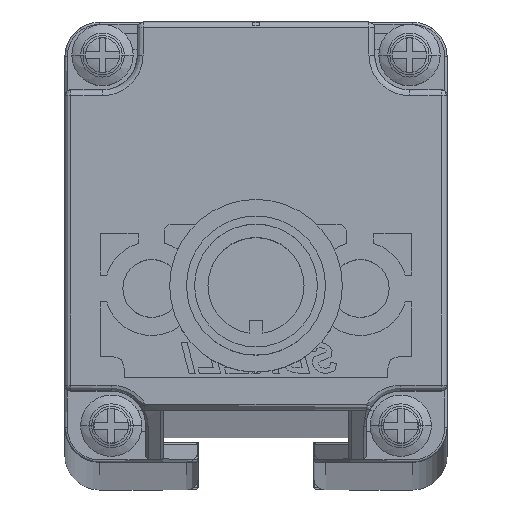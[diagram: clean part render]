
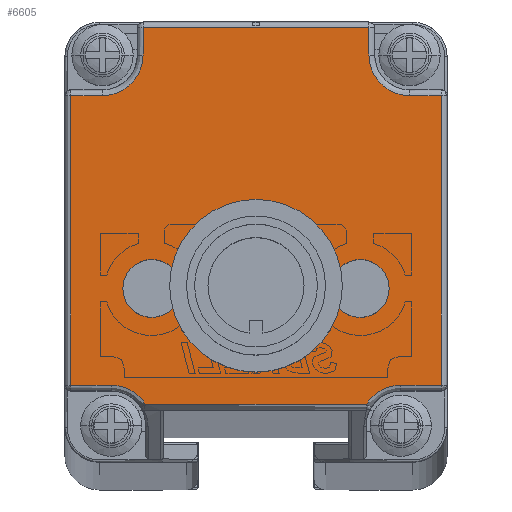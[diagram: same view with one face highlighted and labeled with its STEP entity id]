
A CAD part, top view. The second image highlights one B-rep face of the part: STEP entity #6605.
In plain terms, the highlighted planar face has unit normal (0, 0, 1).
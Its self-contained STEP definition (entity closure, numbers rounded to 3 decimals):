
#2629=CARTESIAN_POINT('',(0.65,-8.054,
1245.276));
#2630=DIRECTION('',(0.,0.,1.));
#2631=DIRECTION('',(1.,0.,0.));
#2632=AXIS2_PLACEMENT_3D('',#2629,#2630,#2631);
#2634=CARTESIAN_POINT('',(0.65,-8.054,
1245.276));
#2635=DIRECTION('',(0.,0.,1.));
#2636=DIRECTION('',(-1.,0.,0.));
#2637=AXIS2_PLACEMENT_3D('',#2634,#2635,#2636);
#2639=CARTESIAN_POINT('',(9.65,-8.055,1245.276));
#2640=DIRECTION('',(0.,0.,1.));
#2641=DIRECTION('',(1.,-0.007,0.));
#2642=AXIS2_PLACEMENT_3D('',#2639,#2640,#2641);
#2644=CARTESIAN_POINT('',(9.65,-8.055,1245.276));
#2645=DIRECTION('',(0.,0.,1.));
#2646=DIRECTION('',(-1.,0.007,0.));
#2647=AXIS2_PLACEMENT_3D('',#2644,#2645,#2646);
#2649=CARTESIAN_POINT('',(-8.35,-8.054,
1245.276));
#2650=DIRECTION('',(0.,0.,1.));
#2651=DIRECTION('',(1.,0.007,0.));
#2652=AXIS2_PLACEMENT_3D('',#2649,#2650,#2651);
#2654=CARTESIAN_POINT('',(-8.35,-8.054,
1245.276));
#2655=DIRECTION('',(0.,0.,1.));
#2656=DIRECTION('',(-1.,-0.007,0.));
#2657=AXIS2_PLACEMENT_3D('',#2654,#2655,#2656);
#2659=CARTESIAN_POINT('',(-11.85,-19.904,
1245.276));
#2660=DIRECTION('',(0.,0.,1.));
#2661=DIRECTION('',(0.849,0.528,0.));
#2662=AXIS2_PLACEMENT_3D('',#2659,#2660,#2661);
#2664=CARTESIAN_POINT('',(-12.6,12.094,1245.276));
#2665=DIRECTION('',(0.,0.,1.));
#2666=DIRECTION('',(0.,-1.,0.));
#2667=AXIS2_PLACEMENT_3D('',#2664,#2665,#2666);
#2669=CARTESIAN_POINT('',(13.9,12.094,1245.276));
#2670=DIRECTION('',(0.,0.,1.));
#2671=DIRECTION('',(-1.,0.,0.));
#2672=AXIS2_PLACEMENT_3D('',#2669,#2670,#2671);
#2674=CARTESIAN_POINT('',(13.15,-19.904,1245.276));
#2675=DIRECTION('',(0.,0.,1.));
#2676=DIRECTION('',(0.,1.,0.));
#2677=AXIS2_PLACEMENT_3D('',#2674,#2675,#2676);
#4225=DIRECTION('',(1.,0.,0.));
#4226=VECTOR('',#4225,19.056);
#4227=CARTESIAN_POINT('',(-8.878,-18.056,
1245.276));
#4228=LINE('',#4227,#4226);
#4893=DIRECTION('',(0.,1.,0.));
#4894=VECTOR('',#4893,2.35);
#4895=CARTESIAN_POINT('',(10.4,12.094,1245.276));
#4896=LINE('',#4895,#4894);
#4916=DIRECTION('',(-1.,0.,0.));
#4917=VECTOR('',#4916,19.5);
#4918=CARTESIAN_POINT('',(10.4,14.444,1245.276));
#4919=LINE('',#4918,#4917);
#4940=DIRECTION('',(0.,-1.,0.));
#4941=VECTOR('',#4940,2.35);
#4942=CARTESIAN_POINT('',(-9.1,14.444,1245.276));
#4943=LINE('',#4942,#4941);
#4967=DIRECTION('',(-1.,0.,0.));
#4968=VECTOR('',#4967,2.75);
#4969=CARTESIAN_POINT('',(-12.6,8.594,1245.276));
#4970=LINE('',#4969,#4968);
#4998=DIRECTION('',(0.,-1.,0.));
#4999=VECTOR('',#4998,24.998);
#5000=CARTESIAN_POINT('',(-15.35,8.594,1245.276));
#5001=LINE('',#5000,#4999);
#5022=DIRECTION('',(1.,0.,0.));
#5023=VECTOR('',#5022,3.5);
#5024=CARTESIAN_POINT('',(-15.35,-16.404,
1245.276));
#5025=LINE('',#5024,#5023);
#5086=DIRECTION('',(-1.,0.,0.));
#5087=VECTOR('',#5086,2.75);
#5088=CARTESIAN_POINT('',(16.65,8.594,1245.276));
#5089=LINE('',#5088,#5087);
#5326=DIRECTION('',(1.,0.,0.));
#5327=VECTOR('',#5326,3.5);
#5328=CARTESIAN_POINT('',(13.15,-16.404,1245.276));
#5329=LINE('',#5328,#5327);
#5357=DIRECTION('',(0.,1.,0.));
#5358=VECTOR('',#5357,24.998);
#5359=CARTESIAN_POINT('',(16.65,-16.404,1245.276));
#5360=LINE('',#5359,#5358);
#5721=CARTESIAN_POINT('',(12.15,-8.072,1245.276));
#5722=VERTEX_POINT('',#5721);
#5723=CARTESIAN_POINT('',(7.15,-8.039,1245.276));
#5724=VERTEX_POINT('',#5723);
#5725=CARTESIAN_POINT('',(-8.878,-18.056,
1245.276));
#5726=CARTESIAN_POINT('',(-11.85,-16.404,
1245.276));
#5727=VERTEX_POINT('',#5725);
#5728=VERTEX_POINT('',#5726);
#5729=CARTESIAN_POINT('',(-15.35,-16.404,
1245.276));
#5730=VERTEX_POINT('',#5729);
#5731=CARTESIAN_POINT('',(-15.35,8.594,1245.276));
#5732=VERTEX_POINT('',#5731);
#5733=CARTESIAN_POINT('',(-12.6,8.594,1245.276));
#5734=VERTEX_POINT('',#5733);
#5735=CARTESIAN_POINT('',(-9.1,12.094,1245.276));
#5736=VERTEX_POINT('',#5735);
#5737=CARTESIAN_POINT('',(-9.1,14.444,1245.276));
#5738=VERTEX_POINT('',#5737);
#5739=CARTESIAN_POINT('',(10.4,14.444,1245.276));
#5740=VERTEX_POINT('',#5739);
#5741=CARTESIAN_POINT('',(10.4,12.094,1245.276));
#5742=VERTEX_POINT('',#5741);
#5743=CARTESIAN_POINT('',(13.9,8.594,1245.276));
#5744=VERTEX_POINT('',#5743);
#5745=CARTESIAN_POINT('',(16.65,8.594,1245.276));
#5746=VERTEX_POINT('',#5745);
#5747=CARTESIAN_POINT('',(16.65,-16.404,1245.276));
#5748=VERTEX_POINT('',#5747);
#5749=CARTESIAN_POINT('',(13.15,-16.404,1245.276));
#5750=VERTEX_POINT('',#5749);
#5751=CARTESIAN_POINT('',(10.178,-18.056,1245.276));
#5752=VERTEX_POINT('',#5751);
#5753=CARTESIAN_POINT('',(-5.85,-8.037,
1245.276));
#5754=CARTESIAN_POINT('',(-10.85,-8.07,
1245.276));
#5755=VERTEX_POINT('',#5753);
#5756=VERTEX_POINT('',#5754);
#5757=CARTESIAN_POINT('',(3.65,-8.054,1245.276));
#5758=CARTESIAN_POINT('',(-2.35,-8.054,
1245.276));
#5759=VERTEX_POINT('',#5757);
#5760=VERTEX_POINT('',#5758);
#6554=CARTESIAN_POINT('',(0.65,0.944,
1245.276));
#6555=DIRECTION('',(0.,0.,1.));
#6556=DIRECTION('',(1.,0.,0.));
#6557=AXIS2_PLACEMENT_3D('',#6554,#6555,#6556);
#6558=PLANE('',#6557);
#6560=ORIENTED_EDGE('',*,*,#6559,.T.);
#6562=ORIENTED_EDGE('',*,*,#6561,.F.);
#6564=ORIENTED_EDGE('',*,*,#6563,.F.);
#6566=ORIENTED_EDGE('',*,*,#6565,.F.);
#6568=ORIENTED_EDGE('',*,*,#6567,.T.);
#6570=ORIENTED_EDGE('',*,*,#6569,.F.);
#6572=ORIENTED_EDGE('',*,*,#6571,.F.);
#6574=ORIENTED_EDGE('',*,*,#6573,.F.);
#6576=ORIENTED_EDGE('',*,*,#6575,.T.);
#6578=ORIENTED_EDGE('',*,*,#6577,.F.);
#6580=ORIENTED_EDGE('',*,*,#6579,.F.);
#6582=ORIENTED_EDGE('',*,*,#6581,.F.);
#6584=ORIENTED_EDGE('',*,*,#6583,.T.);
#6586=ORIENTED_EDGE('',*,*,#6585,.F.);
#6587=EDGE_LOOP('',(#6560,#6562,#6564,#6566,#6568,#6570,#6572,#6574,#6576,#6578,
#6580,#6582,#6584,#6586));
#6588=FACE_OUTER_BOUND('',#6587,.F.);
#6589=ORIENTED_EDGE('',*,*,#6541,.T.);
#6590=ORIENTED_EDGE('',*,*,#6502,.T.);
#6591=EDGE_LOOP('',(#6589,#6590));
#6592=FACE_BOUND('',#6591,.F.);
#6594=ORIENTED_EDGE('',*,*,#6593,.T.);
#6596=ORIENTED_EDGE('',*,*,#6595,.T.);
#6597=EDGE_LOOP('',(#6594,#6596));
#6598=FACE_BOUND('',#6597,.F.);
#6600=ORIENTED_EDGE('',*,*,#6599,.T.);
#6602=ORIENTED_EDGE('',*,*,#6601,.T.);
#6603=EDGE_LOOP('',(#6600,#6602));
#6604=FACE_BOUND('',#6603,.F.);
#2633=CIRCLE('',#2632,3.);
#2638=CIRCLE('',#2637,3.);
#2643=CIRCLE('',#2642,2.5);
#2648=CIRCLE('',#2647,2.5);
#2653=CIRCLE('',#2652,2.5);
#2658=CIRCLE('',#2657,2.5);
#2663=CIRCLE('',#2662,3.5);
#2668=CIRCLE('',#2667,3.5);
#2673=CIRCLE('',#2672,3.5);
#2678=CIRCLE('',#2677,3.5);
#6502=EDGE_CURVE('',#5724,#5722,#2648,.T.);
#6541=EDGE_CURVE('',#5722,#5724,#2643,.T.);
#6559=EDGE_CURVE('',#5727,#5728,#2663,.T.);
#6561=EDGE_CURVE('',#5730,#5728,#5025,.T.);
#6563=EDGE_CURVE('',#5732,#5730,#5001,.T.);
#6565=EDGE_CURVE('',#5734,#5732,#4970,.T.);
#6567=EDGE_CURVE('',#5734,#5736,#2668,.T.);
#6569=EDGE_CURVE('',#5738,#5736,#4943,.T.);
#6571=EDGE_CURVE('',#5740,#5738,#4919,.T.);
#6573=EDGE_CURVE('',#5742,#5740,#4896,.T.);
#6575=EDGE_CURVE('',#5742,#5744,#2673,.T.);
#6577=EDGE_CURVE('',#5746,#5744,#5089,.T.);
#6579=EDGE_CURVE('',#5748,#5746,#5360,.T.);
#6581=EDGE_CURVE('',#5750,#5748,#5329,.T.);
#6583=EDGE_CURVE('',#5750,#5752,#2678,.T.);
#6585=EDGE_CURVE('',#5727,#5752,#4228,.T.);
#6593=EDGE_CURVE('',#5755,#5756,#2653,.T.);
#6595=EDGE_CURVE('',#5756,#5755,#2658,.T.);
#6599=EDGE_CURVE('',#5759,#5760,#2633,.T.);
#6601=EDGE_CURVE('',#5760,#5759,#2638,.T.);
#6605=ADVANCED_FACE('',(#6588,#6592,#6598,#6604),#6558,.T.);
